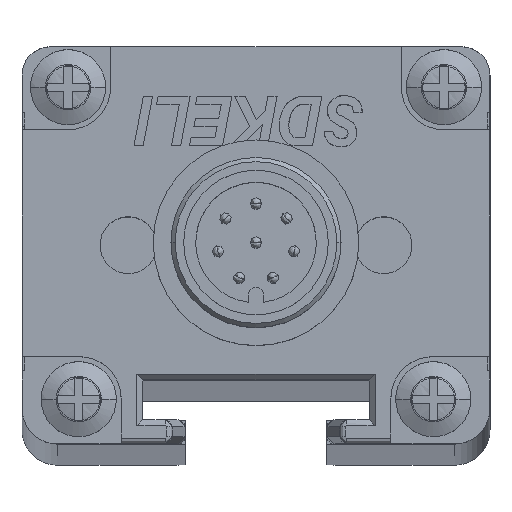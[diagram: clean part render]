
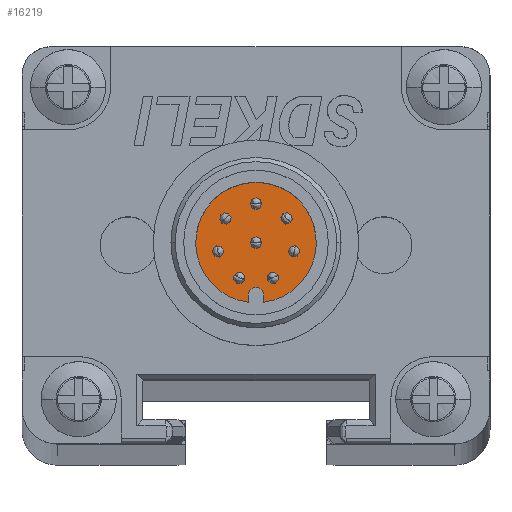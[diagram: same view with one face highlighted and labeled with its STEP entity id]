
A CAD part, top view. The second image highlights one B-rep face of the part: STEP entity #16219.
In plain terms, the highlighted planar face has unit normal (0, 0, 1) as drawn and (-1, 0, 0) by its records, which use the part's own axes.
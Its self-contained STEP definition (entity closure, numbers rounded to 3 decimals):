
#14847=CARTESIAN_POINT('',(-40.,0.,0.));
#14848=DIRECTION('',(-1.,0.,0.));
#14849=DIRECTION('',(0.,-0.129,-0.992));
#14850=AXIS2_PLACEMENT_3D('',#14847,#14848,#14849);
#14865=CARTESIAN_POINT('',(-40.,0.,-3.704));
#14866=DIRECTION('',(-1.,0.,0.));
#14867=DIRECTION('',(0.,-1.,0.));
#14868=AXIS2_PLACEMENT_3D('',#14865,#14866,#14867);
#14870=DIRECTION('',(0.,0.,-1.));
#14871=VECTOR('',#14870,0.51);
#14872=CARTESIAN_POINT('',(-40.,0.55,-3.704));
#14873=LINE('',#14872,#14871);
#14874=DIRECTION('',(0.,0.,1.));
#14875=VECTOR('',#14874,0.51);
#14876=CARTESIAN_POINT('',(-40.,-0.55,-4.214));
#14877=LINE('',#14876,#14875);
#14878=CARTESIAN_POINT('',(-40.,0.,2.75));
#14879=DIRECTION('',(-1.,0.,0.));
#14880=DIRECTION('',(0.,1.,0.));
#14881=AXIS2_PLACEMENT_3D('',#14878,#14879,#14880);
#14883=CARTESIAN_POINT('',(-40.,0.,2.75));
#14884=DIRECTION('',(-1.,0.,0.));
#14885=DIRECTION('',(0.,-1.,0.));
#14886=AXIS2_PLACEMENT_3D('',#14883,#14884,#14885);
#14888=CARTESIAN_POINT('',(-40.,-2.149,1.716));
#14889=DIRECTION('',(-1.,0.,0.));
#14890=DIRECTION('',(0.,0.624,0.782));
#14891=AXIS2_PLACEMENT_3D('',#14888,#14889,#14890);
#14893=CARTESIAN_POINT('',(-40.,-2.149,1.716));
#14894=DIRECTION('',(-1.,0.,0.));
#14895=DIRECTION('',(0.,-0.624,-0.782));
#14896=AXIS2_PLACEMENT_3D('',#14893,#14894,#14895);
#14898=CARTESIAN_POINT('',(-40.,-2.682,-0.609));
#14899=DIRECTION('',(-1.,0.,0.));
#14900=DIRECTION('',(0.,-0.222,0.975));
#14901=AXIS2_PLACEMENT_3D('',#14898,#14899,#14900);
#14903=CARTESIAN_POINT('',(-40.,-2.682,-0.609));
#14904=DIRECTION('',(-1.,0.,0.));
#14905=DIRECTION('',(0.,0.222,-0.975));
#14906=AXIS2_PLACEMENT_3D('',#14903,#14904,#14905);
#14908=CARTESIAN_POINT('',(-40.,-1.197,-2.476));
#14909=DIRECTION('',(-1.,0.,0.));
#14910=DIRECTION('',(0.,-0.9,0.435));
#14911=AXIS2_PLACEMENT_3D('',#14908,#14909,#14910);
#14913=CARTESIAN_POINT('',(-40.,-1.197,-2.476));
#14914=DIRECTION('',(-1.,0.,0.));
#14915=DIRECTION('',(0.,0.9,-0.435));
#14916=AXIS2_PLACEMENT_3D('',#14913,#14914,#14915);
#14918=CARTESIAN_POINT('',(-40.,1.188,-2.48));
#14919=DIRECTION('',(-1.,0.,0.));
#14920=DIRECTION('',(0.,-0.902,-0.432));
#14921=AXIS2_PLACEMENT_3D('',#14918,#14919,#14920);
#14923=CARTESIAN_POINT('',(-40.,1.188,-2.48));
#14924=DIRECTION('',(-1.,0.,0.));
#14925=DIRECTION('',(0.,0.902,0.432));
#14926=AXIS2_PLACEMENT_3D('',#14923,#14924,#14925);
#14928=CARTESIAN_POINT('',(-40.,2.68,-0.619));
#14929=DIRECTION('',(-1.,0.,0.));
#14930=DIRECTION('',(0.,-0.225,-0.974));
#14931=AXIS2_PLACEMENT_3D('',#14928,#14929,#14930);
#14933=CARTESIAN_POINT('',(-40.,2.68,-0.619));
#14934=DIRECTION('',(-1.,0.,0.));
#14935=DIRECTION('',(0.,0.225,0.974));
#14936=AXIS2_PLACEMENT_3D('',#14933,#14934,#14935);
#14938=CARTESIAN_POINT('',(-40.,2.155,1.708));
#14939=DIRECTION('',(-1.,0.,0.));
#14940=DIRECTION('',(0.,0.621,-0.784));
#14941=AXIS2_PLACEMENT_3D('',#14938,#14939,#14940);
#14943=CARTESIAN_POINT('',(-40.,2.155,1.708));
#14944=DIRECTION('',(-1.,0.,0.));
#14945=DIRECTION('',(0.,-0.621,0.784));
#14946=AXIS2_PLACEMENT_3D('',#14943,#14944,#14945);
#14948=CARTESIAN_POINT('',(-40.,0.,0.));
#14949=DIRECTION('',(-1.,0.,0.));
#14950=DIRECTION('',(0.,1.,0.));
#14951=AXIS2_PLACEMENT_3D('',#14948,#14949,#14950);
#14953=CARTESIAN_POINT('',(-40.,0.,0.));
#14954=DIRECTION('',(-1.,0.,0.));
#14955=DIRECTION('',(0.,-1.,0.));
#14956=AXIS2_PLACEMENT_3D('',#14953,#14954,#14955);
#15702=CARTESIAN_POINT('',(-40.,-0.55,-4.214));
#15704=VERTEX_POINT('',#15702);
#15706=CARTESIAN_POINT('',(-40.,0.55,-4.214));
#15708=VERTEX_POINT('',#15706);
#15711=CARTESIAN_POINT('',(-40.,0.55,-3.704));
#15713=VERTEX_POINT('',#15711);
#15715=CARTESIAN_POINT('',(-40.,-0.55,-3.704));
#15717=VERTEX_POINT('',#15715);
#15718=CARTESIAN_POINT('',(-40.,0.4,2.75));
#15719=CARTESIAN_POINT('',(-40.,-0.4,2.75));
#15720=VERTEX_POINT('',#15718);
#15721=VERTEX_POINT('',#15719);
#15722=CARTESIAN_POINT('',(-40.,-1.9,2.028));
#15723=CARTESIAN_POINT('',(-40.,-2.399,1.403));
#15724=VERTEX_POINT('',#15722);
#15725=VERTEX_POINT('',#15723);
#15726=CARTESIAN_POINT('',(-40.,-2.77,-0.219));
#15727=CARTESIAN_POINT('',(-40.,-2.593,-0.999));
#15728=VERTEX_POINT('',#15726);
#15729=VERTEX_POINT('',#15727);
#15730=CARTESIAN_POINT('',(-40.,-1.557,-2.302));
#15731=CARTESIAN_POINT('',(-40.,-0.837,-2.65));
#15732=VERTEX_POINT('',#15730);
#15733=VERTEX_POINT('',#15731);
#15734=CARTESIAN_POINT('',(-40.,0.828,-2.653));
#15735=CARTESIAN_POINT('',(-40.,1.549,-2.307));
#15736=VERTEX_POINT('',#15734);
#15737=VERTEX_POINT('',#15735);
#15738=CARTESIAN_POINT('',(-40.,2.59,-1.008));
#15739=CARTESIAN_POINT('',(-40.,2.769,-0.229));
#15740=VERTEX_POINT('',#15738);
#15741=VERTEX_POINT('',#15739);
#15742=CARTESIAN_POINT('',(-40.,2.404,1.395));
#15743=CARTESIAN_POINT('',(-40.,1.907,2.022));
#15744=VERTEX_POINT('',#15742);
#15745=VERTEX_POINT('',#15743);
#15746=CARTESIAN_POINT('',(-40.,0.4,0.));
#15747=CARTESIAN_POINT('',(-40.,-0.4,0.));
#15748=VERTEX_POINT('',#15746);
#15749=VERTEX_POINT('',#15747);
#16160=CARTESIAN_POINT('',(-40.,0.,0.));
#16161=DIRECTION('',(-1.,0.,0.));
#16162=DIRECTION('',(0.,1.,0.));
#16163=AXIS2_PLACEMENT_3D('',#16160,#16161,#16162);
#16164=PLANE('',#16163);
#16165=ORIENTED_EDGE('',*,*,#16126,.T.);
#16166=ORIENTED_EDGE('',*,*,#16142,.T.);
#16167=ORIENTED_EDGE('',*,*,#16152,.F.);
#16168=ORIENTED_EDGE('',*,*,#16111,.T.);
#16169=EDGE_LOOP('',(#16165,#16166,#16167,#16168));
#16170=FACE_OUTER_BOUND('',#16169,.F.);
#16172=ORIENTED_EDGE('',*,*,#16171,.T.);
#16174=ORIENTED_EDGE('',*,*,#16173,.T.);
#16175=EDGE_LOOP('',(#16172,#16174));
#16176=FACE_BOUND('',#16175,.F.);
#16178=ORIENTED_EDGE('',*,*,#16177,.T.);
#16180=ORIENTED_EDGE('',*,*,#16179,.T.);
#16181=EDGE_LOOP('',(#16178,#16180));
#16182=FACE_BOUND('',#16181,.F.);
#16184=ORIENTED_EDGE('',*,*,#16183,.T.);
#16186=ORIENTED_EDGE('',*,*,#16185,.T.);
#16187=EDGE_LOOP('',(#16184,#16186));
#16188=FACE_BOUND('',#16187,.F.);
#16190=ORIENTED_EDGE('',*,*,#16189,.T.);
#16192=ORIENTED_EDGE('',*,*,#16191,.T.);
#16193=EDGE_LOOP('',(#16190,#16192));
#16194=FACE_BOUND('',#16193,.F.);
#16196=ORIENTED_EDGE('',*,*,#16195,.T.);
#16198=ORIENTED_EDGE('',*,*,#16197,.T.);
#16199=EDGE_LOOP('',(#16196,#16198));
#16200=FACE_BOUND('',#16199,.F.);
#16202=ORIENTED_EDGE('',*,*,#16201,.T.);
#16204=ORIENTED_EDGE('',*,*,#16203,.T.);
#16205=EDGE_LOOP('',(#16202,#16204));
#16206=FACE_BOUND('',#16205,.F.);
#16208=ORIENTED_EDGE('',*,*,#16207,.T.);
#16210=ORIENTED_EDGE('',*,*,#16209,.T.);
#16211=EDGE_LOOP('',(#16208,#16210));
#16212=FACE_BOUND('',#16211,.F.);
#16214=ORIENTED_EDGE('',*,*,#16213,.T.);
#16216=ORIENTED_EDGE('',*,*,#16215,.T.);
#16217=EDGE_LOOP('',(#16214,#16216));
#16218=FACE_BOUND('',#16217,.F.);
#16219=ADVANCED_FACE('',(#16170,#16176,#16182,#16188,#16194,#16200,#16206,
#16212,#16218),#16164,.T.);
#14851=CIRCLE('',#14850,4.25);
#14869=CIRCLE('',#14868,0.55);
#14882=CIRCLE('',#14881,0.4);
#14887=CIRCLE('',#14886,0.4);
#14892=CIRCLE('',#14891,0.4);
#14897=CIRCLE('',#14896,0.4);
#14902=CIRCLE('',#14901,0.4);
#14907=CIRCLE('',#14906,0.4);
#14912=CIRCLE('',#14911,0.4);
#14917=CIRCLE('',#14916,0.4);
#14922=CIRCLE('',#14921,0.4);
#14927=CIRCLE('',#14926,0.4);
#14932=CIRCLE('',#14931,0.4);
#14937=CIRCLE('',#14936,0.4);
#14942=CIRCLE('',#14941,0.4);
#14947=CIRCLE('',#14946,0.4);
#14952=CIRCLE('',#14951,0.4);
#14957=CIRCLE('',#14956,0.4);
#16111=EDGE_CURVE('',#15704,#15717,#14877,.T.);
#16126=EDGE_CURVE('',#15717,#15713,#14869,.T.);
#16142=EDGE_CURVE('',#15713,#15708,#14873,.T.);
#16152=EDGE_CURVE('',#15704,#15708,#14851,.T.);
#16171=EDGE_CURVE('',#15720,#15721,#14882,.T.);
#16173=EDGE_CURVE('',#15721,#15720,#14887,.T.);
#16177=EDGE_CURVE('',#15724,#15725,#14892,.T.);
#16179=EDGE_CURVE('',#15725,#15724,#14897,.T.);
#16183=EDGE_CURVE('',#15728,#15729,#14902,.T.);
#16185=EDGE_CURVE('',#15729,#15728,#14907,.T.);
#16189=EDGE_CURVE('',#15732,#15733,#14912,.T.);
#16191=EDGE_CURVE('',#15733,#15732,#14917,.T.);
#16195=EDGE_CURVE('',#15736,#15737,#14922,.T.);
#16197=EDGE_CURVE('',#15737,#15736,#14927,.T.);
#16201=EDGE_CURVE('',#15740,#15741,#14932,.T.);
#16203=EDGE_CURVE('',#15741,#15740,#14937,.T.);
#16207=EDGE_CURVE('',#15744,#15745,#14942,.T.);
#16209=EDGE_CURVE('',#15745,#15744,#14947,.T.);
#16213=EDGE_CURVE('',#15748,#15749,#14952,.T.);
#16215=EDGE_CURVE('',#15749,#15748,#14957,.T.);
